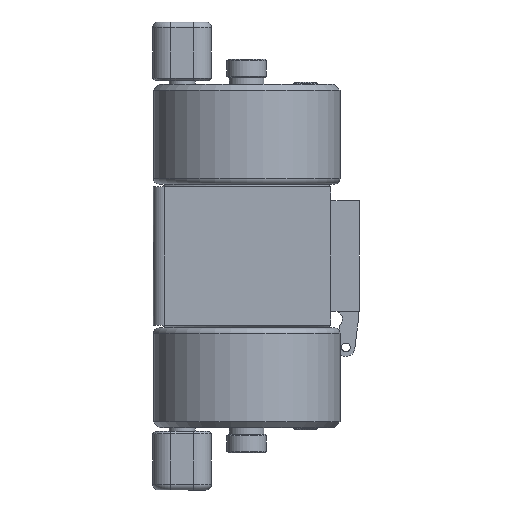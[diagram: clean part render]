
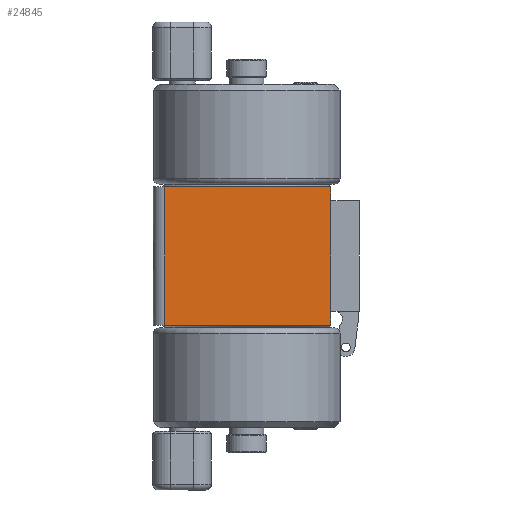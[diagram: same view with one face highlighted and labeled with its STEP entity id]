
A CAD part, left-side view. The second image highlights one B-rep face of the part: STEP entity #24845.
In plain terms, the highlighted planar face has unit normal (-1, 0, 0).
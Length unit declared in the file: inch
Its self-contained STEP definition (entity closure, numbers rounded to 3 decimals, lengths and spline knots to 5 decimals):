
#3746 = VERTEX_POINT ( 'NONE', #12527 ) ;
#3757 = VERTEX_POINT ( 'NONE', #12493 ) ;
#3768 = VERTEX_POINT ( 'NONE', #12479 ) ;
#3811 = VERTEX_POINT ( 'NONE', #12514 ) ;
#5553 = ORIENTED_EDGE ( 'NONE', *, *, #46404, .F. ) ;
#5597 = ORIENTED_EDGE ( 'NONE', *, *, #46296, .F. ) ;
#5606 = ORIENTED_EDGE ( 'NONE', *, *, #45203, .T. ) ;
#5610 = ORIENTED_EDGE ( 'NONE', *, *, #45292, .F. ) ;
#5616 = ORIENTED_EDGE ( 'NONE', *, *, #45206, .F. ) ;
#5630 = ORIENTED_EDGE ( 'NONE', *, *, #45306, .T. ) ;
#7446 = DIRECTION ( 'NONE',  ( 0., 0., -1. ) ) ;
#7455 = CARTESIAN_POINT ( 'NONE',  ( -1.868, -1.868, 1.538 ) ) ;
#7839 = DIRECTION ( 'NONE',  ( 0., 0., -1. ) ) ;
#7844 = CARTESIAN_POINT ( 'NONE',  ( -1.868, -1.868, 1.538 ) ) ;
#8422 = LINE ( 'NONE', #7844, #8455 ) ;
#8455 = VECTOR ( 'NONE', #7839, 39.37008 ) ;
#9436 = LINE ( 'NONE', #7455, #9468 ) ;
#9468 = VECTOR ( 'NONE', #7446, 39.37008 ) ;
#12479 = CARTESIAN_POINT ( 'NONE',  ( -1.868, -1.868, -1.23 ) ) ;
#12493 = CARTESIAN_POINT ( 'NONE',  ( -1.868, -1.868, 1.23 ) ) ;
#12514 = CARTESIAN_POINT ( 'NONE',  ( -1.868, -1.868, -1.538 ) ) ;
#12527 = CARTESIAN_POINT ( 'NONE',  ( -1.868, -1.868, 1.538 ) ) ;
#15886 = VERTEX_POINT ( 'NONE', #21460 ) ;
#15932 = VERTEX_POINT ( 'NONE', #21471 ) ;
#17114 = EDGE_LOOP ( 'NONE', ( #5606, #5630, #5553, #5616, #5597, #5610 ) ) ;
#21460 = CARTESIAN_POINT ( 'NONE',  ( -1.868, 1.819, 1.538 ) ) ;
#21471 = CARTESIAN_POINT ( 'NONE',  ( -1.868, 1.819, -1.538 ) ) ;
#22447 = PLANE ( 'NONE',  #46918 ) ;
#22486 = DIRECTION ( 'NONE',  ( 1., 0., 0. ) ) ;
#22492 = DIRECTION ( 'NONE',  ( 0., 1., 0. ) ) ;
#22495 = CARTESIAN_POINT ( 'NONE',  ( -1.868, 2.069, 1.538 ) ) ;
#24845 = ADVANCED_FACE ( 'NONE', ( #34649 ), #22447, .F. ) ;
#34649 = FACE_OUTER_BOUND ( 'NONE', #17114, .T. ) ;
#37704 = DIRECTION ( 'NONE',  ( 0., -1., 0. ) ) ;
#37708 = CARTESIAN_POINT ( 'NONE',  ( -1.868, 2.069, -1.538 ) ) ;
#39581 = LINE ( 'NONE', #40996, #39584 ) ;
#39584 = VECTOR ( 'NONE', #40965, 39.37008 ) ;
#39642 = LINE ( 'NONE', #40984, #39671 ) ;
#39671 = VECTOR ( 'NONE', #40961, 39.37008 ) ;
#39714 = VECTOR ( 'NONE', #37704, 39.37008 ) ;
#39727 = LINE ( 'NONE', #37708, #39714 ) ;
#39736 = VECTOR ( 'NONE', #41165, 39.37008 ) ;
#39745 = LINE ( 'NONE', #41189, #39736 ) ;
#40961 = DIRECTION ( 'NONE',  ( 0., 0., -1. ) ) ;
#40965 = DIRECTION ( 'NONE',  ( 0., 0., -1. ) ) ;
#40984 = CARTESIAN_POINT ( 'NONE',  ( -1.868, -1.868, 1.538 ) ) ;
#40996 = CARTESIAN_POINT ( 'NONE',  ( -1.868, 1.819, -1.538 ) ) ;
#41165 = DIRECTION ( 'NONE',  ( 0., -1., 0. ) ) ;
#41189 = CARTESIAN_POINT ( 'NONE',  ( -1.868, 2.069, 1.538 ) ) ;
#45203 = EDGE_CURVE ( 'NONE', #15886, #15932, #39581, .T. ) ;
#45206 = EDGE_CURVE ( 'NONE', #3757, #3768, #39642, .T. ) ;
#45292 = EDGE_CURVE ( 'NONE', #15886, #3746, #39745, .T. ) ;
#45306 = EDGE_CURVE ( 'NONE', #15932, #3811, #39727, .T. ) ;
#46296 = EDGE_CURVE ( 'NONE', #3746, #3757, #9436, .T. ) ;
#46404 = EDGE_CURVE ( 'NONE', #3768, #3811, #8422, .T. ) ;
#46918 = AXIS2_PLACEMENT_3D ( 'NONE', #22495, #22486, #22492 ) ;
